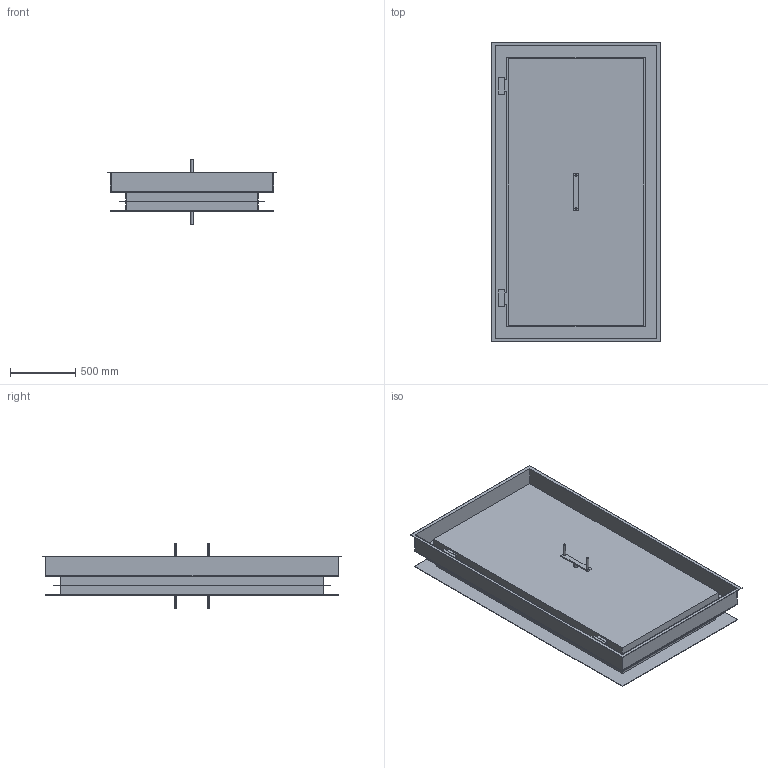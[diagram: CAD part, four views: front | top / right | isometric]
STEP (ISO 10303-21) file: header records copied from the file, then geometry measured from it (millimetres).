
FILE_DESCRIPTION((''),'2;1');
FILE_NAME('51797892','2022-03-17T09:54:48',('ka'),('HUBER SE'),'CREO PARAMETRIC BY PTC INC, 2021304','CREO PARAMETRIC BY PTC INC, 2021304','');
FILE_SCHEMA(('AUTOMOTIVE_DESIGN { 1 0 10303 214 1 1 1 1 }'));
Length unit declared in the file: millimetre
Products named in the file (1): 51797892
Bounding box: 1300 x 2300 x 495 mm (x, y, z)
Volume: 210578083.3 mm3; surface area: 13009421.1 mm2
Topology: 1 solids, 1 shells, 99 faces, 232 edges, 152 vertices
Faces by surface type: plane 87, cylinder 12
Entity records: 3678 total; most frequent: CARTESIAN_POINT 485, ORIENTED_EDGE 464, DIRECTION 454, EDGE_CURVE 232, VECTOR 208, LINE 208, VERTEX_POINT 152, AXIS2_PLACEMENT_3D 123
